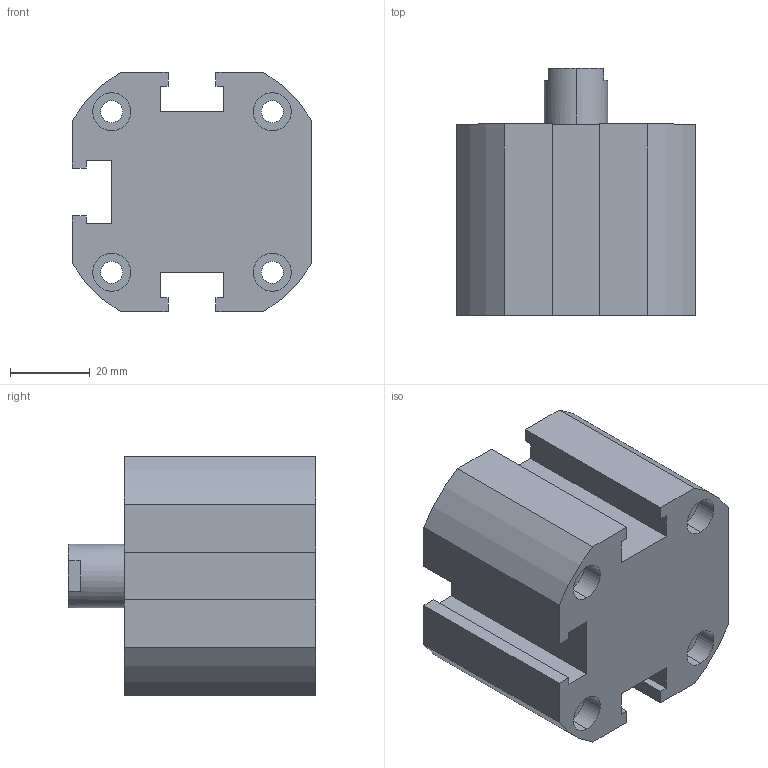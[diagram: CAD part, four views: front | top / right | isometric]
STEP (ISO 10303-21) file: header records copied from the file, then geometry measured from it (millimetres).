
FILE_DESCRIPTION (( 'STEP AP203' ), '1' );
FILE_NAME ('XG#0-40D-10.STEP', '2016-05-24T01:37:51', ( '' ), ( '' ), 'SwSTEP 2.0', 'SolidWorks 2014', '' );
FILE_SCHEMA (( 'CONFIG_CONTROL_DESIGN' ));
Length unit declared in the file: millimetre
Products named in the file (1): XG#0-40D-10
Bounding box: 60 x 62 x 60 mm (x, y, z)
Volume: 134942.5 mm3; surface area: 25381.1 mm2
Topology: 1 solids, 1 shells, 107 faces, 267 edges, 174 vertices
Faces by surface type: cylinder 52, plane 49, cone 6
Entity records: 3290 total; most frequent: DIRECTION 591, CARTESIAN_POINT 545, ORIENTED_EDGE 526, EDGE_CURVE 263, AXIS2_PLACEMENT_3D 220, VERTEX_POINT 174, LINE 151, VECTOR 151
